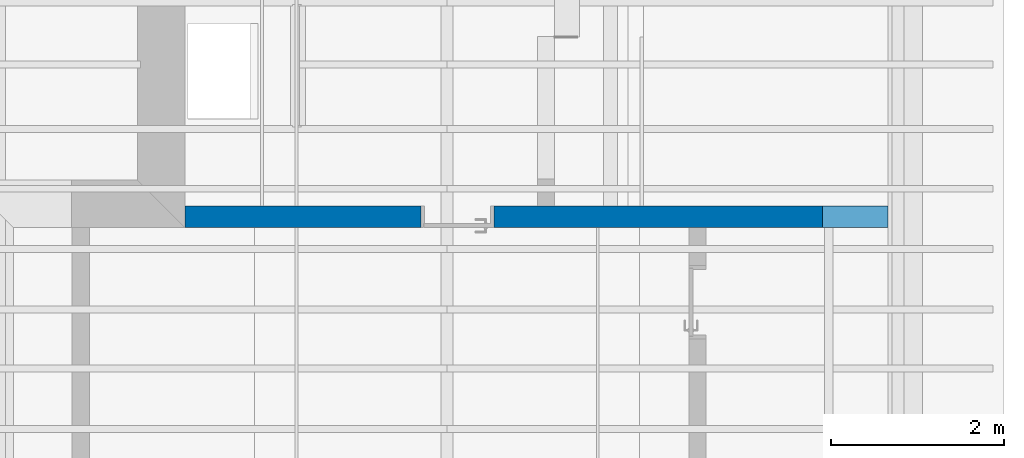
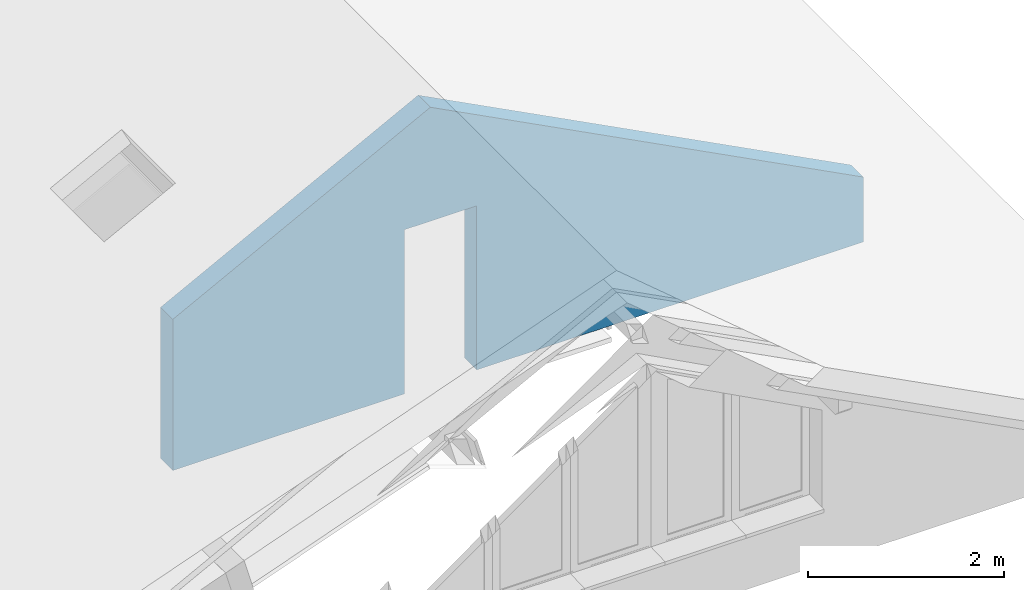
# One storey, part 6 of 18: 1 wall, 1 opening.
"""IFC2X3 building model written with IfcOpenShell, lengths in metres."""

from ifc_helpers import new_model, entity, si_unit, converted_unit, derived_unit, direction, frame, frame_2d, origin, place, context, subcontext, project, spatial, polyline, rectangle, extrude, clip, bounded_halfspace, material, layer, layer_set, layer_usage, type_object, element, save


model = new_model("IFC2X3")

# Units and contexts
model_context = context("Model", 3, precision=1e-05, world=origin(), true_north=direction((6.123233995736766e-17, 1.0)))
body_context = subcontext(model_context, "Body", "Model", "MODEL_VIEW")
ifc_project = project(units=[si_unit("LENGTHUNIT", "METRE"), si_unit("AREAUNIT", "SQUARE_METRE"), si_unit("VOLUMEUNIT", "CUBIC_METRE"), si_unit("POWERUNIT", "WATT"), derived_unit("USERDEFINED", [(si_unit("MASSUNIT", "GRAM", prefix="KILO"), 1), (si_unit("TIMEUNIT", "SECOND"), -3)]), derived_unit("THERMALRESISTANCEUNIT", [(si_unit("MASSUNIT", "GRAM", prefix="KILO"), -1), (si_unit("TIMEUNIT", "SECOND"), 3), (si_unit("THERMODYNAMICTEMPERATUREUNIT", "KELVIN"), 1)]), derived_unit("USERDEFINED", [(si_unit("MASSUNIT", "GRAM", prefix="KILO"), 1), (si_unit("TIMEUNIT", "SECOND"), -2), (si_unit("THERMODYNAMICTEMPERATUREUNIT", "KELVIN"), -1)]), derived_unit("THERMALTRANSMITTANCEUNIT", [(si_unit("MASSUNIT", "GRAM", prefix="KILO"), 1), (si_unit("TIMEUNIT", "SECOND"), -3), (si_unit("THERMODYNAMICTEMPERATUREUNIT", "KELVIN"), -1)]), converted_unit("PLANEANGLEUNIT", "DEGREE", entity("IfcPlaneAngleMeasure", 0.017453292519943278), si_unit("PLANEANGLEUNIT", "RADIAN"), dimensions=[0, 0, 0, 0, 0, 0, 0]), derived_unit("MOMENTOFINERTIAUNIT", [(si_unit("LENGTHUNIT", "METRE"), 4)])], contexts=[model_context])

# Site, building, storey
site_placement = place(None, origin())
site = spatial("IfcSite", under=ifc_project, at=site_placement, Name="Default", CompositionType="ELEMENT")
building_placement = place(site_placement, origin())
building = spatial("IfcBuilding", under=site, at=building_placement, CompositionType="ELEMENT")
storey_placement = place(building_placement, frame((0.0, 0.0, 5.4)))
storey = spatial("IfcBuildingStorey", under=building, at=storey_placement, Name="1. Obergeschoss", CompositionType="ELEMENT", Elevation=5.4)

# Wall, opening
ifc_material = material(Name="Mauerwerk - Ziegel")
ifc_layer = layer(ifc_material, 0.24999999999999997)
ifc_layer_set = layer_set([ifc_layer], Name="Basiswand:Ziegel 250")
ifc_layer_usage = layer_usage(ifc_layer_set, "AXIS2", "POSITIVE", -0.12499999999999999)
wall_type = type_object("IfcWallType", Name="Basiswand:Ziegel 250", PredefinedType="STANDARD", material=ifc_layer_set)
wall_placement = place(storey_placement, frame((38.22672000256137, 20.17727237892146, 0.0), z_axis=(0.0, 0.0, 1.0), x_axis=(-1.0, 0.0, 0.0)))
wall = element("IfcWallStandardCase", 1, at=wall_placement, inside=storey, type_object=wall_type, material=ifc_layer_usage, Name="Basiswand:Ziegel 250", ObjectType="Basiswand:Ziegel 250", context=body_context, shape_type="Clipping", body=[
    clip(clip(extrude(rectangle(XDim=8.140000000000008, YDim=0.2500000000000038, at=frame_2d((4.070000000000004, -4.996003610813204e-16), x_axis=(-1.0, 0.0))), origin(), (0.0, 0.0, 1.0), 3.4651574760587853), bounded_halfspace(frame((8.14000000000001, -0.12499999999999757, 1.8848151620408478), z_axis=(0.4617486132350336, 0.0, 0.8870108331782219), x_axis=(0.0, 1.0, 0.0)), False, frame((8.14000000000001, -0.12499999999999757, 1.8848151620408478)), polyline([(0.0, 0.0), (0.0, 0.2499999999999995), (-3.0358093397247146, 0.2499999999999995), (-3.035809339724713, 0.0), (-0.9072943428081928, 0.0), (-0.8772943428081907, 0.0), (0.0, 0.0)]))), bounded_halfspace(frame((0.0, 0.12500000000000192, 0.8080839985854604), z_axis=(-0.4617486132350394, 0.0, 0.8870108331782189), x_axis=(0.0, -1.0, 0.0)), False, frame((0.0, 0.12500000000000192, 0.8080839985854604)), polyline([(0.0, 0.0), (0.0, -0.2499999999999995), (3.857965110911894, -0.2499999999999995), (4.0579651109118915, -0.2499999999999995), (5.104190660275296, -0.2499999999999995), (5.104190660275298, 0.0), (2.302965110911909, 0.0), (2.102965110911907, 0.0), (0.7322313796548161, 0.0), (0.6322313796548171, 0.0), (0.0, 0.0)]))),
])
opening_placement = place(wall_placement, frame((4.5579651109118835, -0.12500000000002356, -0.18000000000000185)))
element("IfcOpeningElement", 2, at=opening_placement, cuts=wall, Name="TU DF 1 - Rahmenstock flächenbündig:DL - 760 x 2000:1", ObjectType="Opening", context=body_context, shape_type="SweptSolid", body=[
    extrude(rectangle(XDim=2.224999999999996, YDim=0.8499999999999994, at=frame_2d((1.1124999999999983, 0.4250000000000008), x_axis=(-1.0, 0.0))), frame((0.0, 0.0, 0.0), z_axis=(0.0, 1.0, 0.0), x_axis=(0.0, 0.0, 1.0)), (0.0, 0.0, 1.0), 0.24999999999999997),
])

save(model, "model.ifc")
